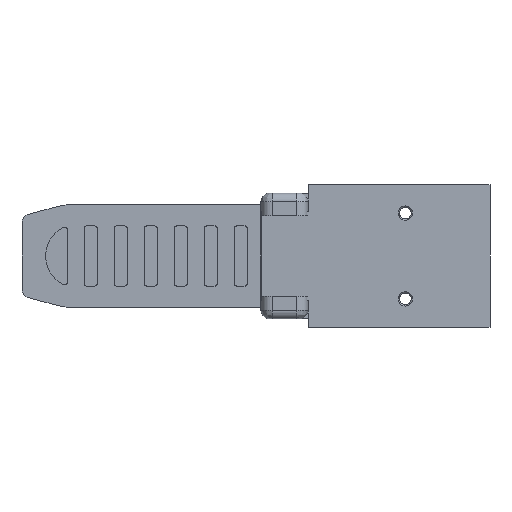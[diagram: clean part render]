
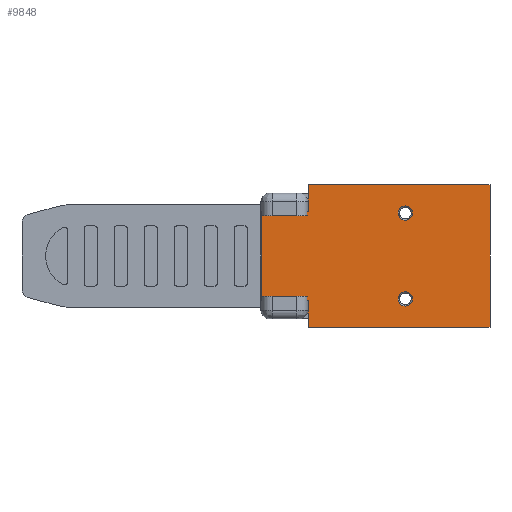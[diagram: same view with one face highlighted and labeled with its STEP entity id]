
A CAD part, front view. The second image highlights one B-rep face of the part: STEP entity #9848.
In plain terms, the highlighted planar face has unit normal (0, -1, 0).
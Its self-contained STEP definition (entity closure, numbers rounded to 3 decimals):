
#83 = LINE ( 'NONE', #9239, #6859 ) ;
#190 = EDGE_CURVE ( 'NONE', #10277, #3654, #633, .T. ) ;
#385 = LINE ( 'NONE', #14212, #8561 ) ;
#525 = EDGE_LOOP ( 'NONE', ( #3130, #3192, #3205, #3323, #3358, #3406, #3482, #3560 ) ) ;
#577 = CARTESIAN_POINT ( 'NONE',  ( 11., -5., -7.5 ) ) ;
#593 = VECTOR ( 'NONE', #2120, 1000. ) ;
#633 = LINE ( 'NONE', #4748, #593 ) ;
#893 = DIRECTION ( 'NONE',  ( 0., 0., -1. ) ) ;
#911 = CARTESIAN_POINT ( 'NONE',  ( 11., -5., -7.5 ) ) ;
#917 = DIRECTION ( 'NONE',  ( 0., 1., 0. ) ) ;
#1194 = DIRECTION ( 'NONE',  ( 0., 0., -1. ) ) ;
#1375 = VERTEX_POINT ( 'NONE', #14506 ) ;
#1381 = VECTOR ( 'NONE', #11123, 1000. ) ;
#1484 = VECTOR ( 'NONE', #13884, 1000. ) ;
#1534 = VECTOR ( 'NONE', #14198, 1000. ) ;
#1571 = CARTESIAN_POINT ( 'NONE',  ( -14.2, -5., 7.8 ) ) ;
#1749 = DIRECTION ( 'NONE',  ( 0., 0., 1. ) ) ;
#1754 = DIRECTION ( 'NONE',  ( 0., 0., 1. ) ) ;
#1810 = DIRECTION ( 'NONE',  ( 0., 1., 0. ) ) ;
#1903 = CARTESIAN_POINT ( 'NONE',  ( 11., -5., 7.5 ) ) ;
#2010 = LINE ( 'NONE', #13999, #4757 ) ;
#2075 = DIRECTION ( 'NONE',  ( 0., 0., 1. ) ) ;
#2119 = VERTEX_POINT ( 'NONE', #8303 ) ;
#2120 = DIRECTION ( 'NONE',  ( 1., 0., 0. ) ) ;
#2189 = DIRECTION ( 'NONE',  ( 0., 1., 0. ) ) ;
#2258 = EDGE_CURVE ( 'NONE', #5683, #8186, #6461, .T. ) ;
#2325 = EDGE_CURVE ( 'NONE', #7106, #3654, #9963, .T. ) ;
#2451 = EDGE_CURVE ( 'NONE', #5683, #6121, #83, .T. ) ;
#2535 = CARTESIAN_POINT ( 'NONE',  ( 11., -5., 8.75 ) ) ;
#2803 = CARTESIAN_POINT ( 'NONE',  ( 11., -5., -8.75 ) ) ;
#2836 = ORIENTED_EDGE ( 'NONE', *, *, #14582, .T. ) ;
#2864 = CARTESIAN_POINT ( 'NONE',  ( -6., -5., 12.5 ) ) ;
#3014 = ORIENTED_EDGE ( 'NONE', *, *, #14002, .T. ) ;
#3031 = ORIENTED_EDGE ( 'NONE', *, *, #8394, .T. ) ;
#3064 = ORIENTED_EDGE ( 'NONE', *, *, #3611, .T. ) ;
#3130 = ORIENTED_EDGE ( 'NONE', *, *, #2258, .F. ) ;
#3188 = EDGE_CURVE ( 'NONE', #6121, #7947, #10568, .T. ) ;
#3192 = ORIENTED_EDGE ( 'NONE', *, *, #2451, .T. ) ;
#3205 = ORIENTED_EDGE ( 'NONE', *, *, #3188, .T. ) ;
#3323 = ORIENTED_EDGE ( 'NONE', *, *, #12220, .F. ) ;
#3358 = ORIENTED_EDGE ( 'NONE', *, *, #6452, .F. ) ;
#3406 = ORIENTED_EDGE ( 'NONE', *, *, #2325, .T. ) ;
#3482 = ORIENTED_EDGE ( 'NONE', *, *, #190, .F. ) ;
#3517 = AXIS2_PLACEMENT_3D ( 'NONE', #7926, #917, #9020 ) ;
#3560 = ORIENTED_EDGE ( 'NONE', *, *, #13611, .T. ) ;
#3611 = EDGE_CURVE ( 'NONE', #2119, #9522, #9356, .T. ) ;
#3654 = VERTEX_POINT ( 'NONE', #10388 ) ;
#4008 = CARTESIAN_POINT ( 'NONE',  ( -14.2, -5., -7.8 ) ) ;
#4229 = EDGE_LOOP ( 'NONE', ( #2836, #3014 ) ) ;
#4628 = CARTESIAN_POINT ( 'NONE',  ( -6., -5., -7.8 ) ) ;
#4748 = CARTESIAN_POINT ( 'NONE',  ( -14.2, -5., 7.8 ) ) ;
#4757 = VECTOR ( 'NONE', #8548, 1000. ) ;
#5106 = FACE_OUTER_BOUND ( 'NONE', #525, .T. ) ;
#5478 = CIRCLE ( 'NONE', #8254, 1.25 ) ;
#5621 = PLANE ( 'NONE',  #13938 ) ;
#5683 = VERTEX_POINT ( 'NONE', #4628 ) ;
#6121 = VERTEX_POINT ( 'NONE', #8690 ) ;
#6336 = AXIS2_PLACEMENT_3D ( 'NONE', #911, #9012, #2075 ) ;
#6452 = EDGE_CURVE ( 'NONE', #7106, #12878, #2010, .T. ) ;
#6461 = LINE ( 'NONE', #12686, #1484 ) ;
#6479 = DIRECTION ( 'NONE',  ( 0., 0., -1. ) ) ;
#6590 = AXIS2_PLACEMENT_3D ( 'NONE', #1903, #1810, #1754 ) ;
#6859 = VECTOR ( 'NONE', #1194, 1000. ) ;
#7106 = VERTEX_POINT ( 'NONE', #2864 ) ;
#7220 = CARTESIAN_POINT ( 'NONE',  ( 25.8, -5., 12.5 ) ) ;
#7926 = CARTESIAN_POINT ( 'NONE',  ( 11., -5., 7.5 ) ) ;
#7947 = VERTEX_POINT ( 'NONE', #13772 ) ;
#8186 = VERTEX_POINT ( 'NONE', #4008 ) ;
#8206 = FACE_BOUND ( 'NONE', #4229, .T. ) ;
#8254 = AXIS2_PLACEMENT_3D ( 'NONE', #577, #8701, #1749 ) ;
#8303 = CARTESIAN_POINT ( 'NONE',  ( 11., -5., 6.25 ) ) ;
#8394 = EDGE_CURVE ( 'NONE', #9522, #2119, #13405, .T. ) ;
#8548 = DIRECTION ( 'NONE',  ( 1., 0., 0. ) ) ;
#8561 = VECTOR ( 'NONE', #6479, 1000. ) ;
#8690 = CARTESIAN_POINT ( 'NONE',  ( -6., -5., -12.5 ) ) ;
#8701 = DIRECTION ( 'NONE',  ( 0., 1., 0. ) ) ;
#9012 = DIRECTION ( 'NONE',  ( 0., 1., 0. ) ) ;
#9020 = DIRECTION ( 'NONE',  ( 0., 0., 1. ) ) ;
#9120 = CARTESIAN_POINT ( 'NONE',  ( -14.2, -5., 12.5 ) ) ;
#9239 = CARTESIAN_POINT ( 'NONE',  ( -6., -5., 12.5 ) ) ;
#9356 = CIRCLE ( 'NONE', #6590, 1.25 ) ;
#9388 = CIRCLE ( 'NONE', #6336, 1.25 ) ;
#9522 = VERTEX_POINT ( 'NONE', #2535 ) ;
#9848 = ADVANCED_FACE ( 'NONE', ( #8206, #13674, #5106 ), #5621, .F. ) ;
#9963 = LINE ( 'NONE', #13730, #1534 ) ;
#10220 = DIRECTION ( 'NONE',  ( 0., 0., 1. ) ) ;
#10277 = VERTEX_POINT ( 'NONE', #1571 ) ;
#10388 = CARTESIAN_POINT ( 'NONE',  ( -6., -5., 7.8 ) ) ;
#10568 = LINE ( 'NONE', #11033, #1381 ) ;
#10874 = VERTEX_POINT ( 'NONE', #2803 ) ;
#11033 = CARTESIAN_POINT ( 'NONE',  ( -14.2, -5., -12.5 ) ) ;
#11073 = EDGE_LOOP ( 'NONE', ( #3031, #3064 ) ) ;
#11123 = DIRECTION ( 'NONE',  ( 1., 0., 0. ) ) ;
#12220 = EDGE_CURVE ( 'NONE', #12878, #7947, #14380, .T. ) ;
#12686 = CARTESIAN_POINT ( 'NONE',  ( -14.2, -5., -7.8 ) ) ;
#12878 = VERTEX_POINT ( 'NONE', #7220 ) ;
#13405 = CIRCLE ( 'NONE', #3517, 1.25 ) ;
#13611 = EDGE_CURVE ( 'NONE', #10277, #8186, #385, .T. ) ;
#13674 = FACE_BOUND ( 'NONE', #11073, .T. ) ;
#13730 = CARTESIAN_POINT ( 'NONE',  ( -6., -5., 12.5 ) ) ;
#13772 = CARTESIAN_POINT ( 'NONE',  ( 25.8, -5., -12.5 ) ) ;
#13884 = DIRECTION ( 'NONE',  ( -1., 0., 0. ) ) ;
#13938 = AXIS2_PLACEMENT_3D ( 'NONE', #9120, #2189, #10220 ) ;
#13999 = CARTESIAN_POINT ( 'NONE',  ( -14.2, -5., 12.5 ) ) ;
#14002 = EDGE_CURVE ( 'NONE', #10874, #1375, #5478, .T. ) ;
#14064 = VECTOR ( 'NONE', #893, 1000. ) ;
#14198 = DIRECTION ( 'NONE',  ( 0., 0., -1. ) ) ;
#14212 = CARTESIAN_POINT ( 'NONE',  ( -14.2, -5., 12.5 ) ) ;
#14380 = LINE ( 'NONE', #14385, #14064 ) ;
#14385 = CARTESIAN_POINT ( 'NONE',  ( 25.8, -5., 12.5 ) ) ;
#14506 = CARTESIAN_POINT ( 'NONE',  ( 11., -5., -6.25 ) ) ;
#14582 = EDGE_CURVE ( 'NONE', #1375, #10874, #9388, .T. ) ;
